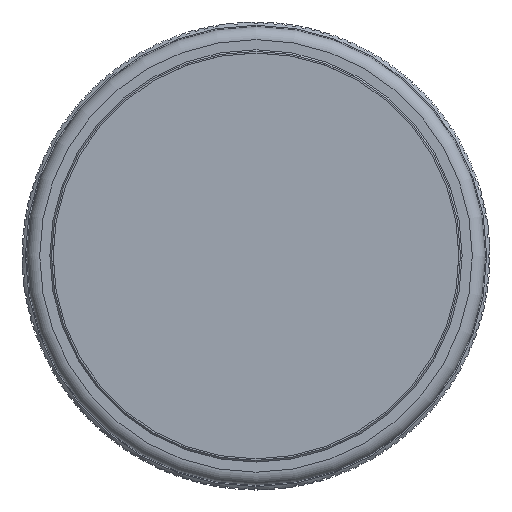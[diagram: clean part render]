
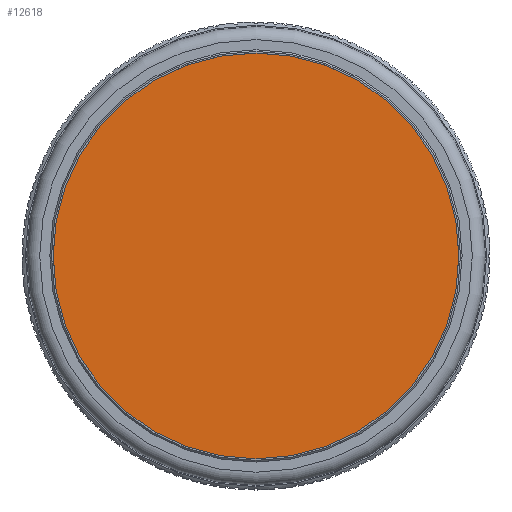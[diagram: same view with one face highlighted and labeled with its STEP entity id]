
A CAD part, top view. The second image highlights one B-rep face of the part: STEP entity #12618.
In plain terms, the highlighted planar face has unit normal (0, 0, 1) as drawn and (-1, 0, 0) by its records, which use the part's own axes.
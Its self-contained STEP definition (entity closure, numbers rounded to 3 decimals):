
#648=PLANE('',#13656);
#1431=FACE_OUTER_BOUND('',#2079,.T.);
#2079=EDGE_LOOP('',(#11849));
#2434=CIRCLE('',#13657,30.999);
#6370=VERTEX_POINT('',#20990);
#8204=EDGE_CURVE('',#6370,#6370,#2434,.T.);
#11849=ORIENTED_EDGE('',*,*,#8204,.F.);
#12618=ADVANCED_FACE('',(#1431),#648,.T.);
#13656=AXIS2_PLACEMENT_3D('',#20989,#16898,#16899);
#13657=AXIS2_PLACEMENT_3D('',#20991,#16900,#16901);
#16898=DIRECTION('center_axis',(-1.,0.,0.));
#16899=DIRECTION('ref_axis',(0.,0.,1.));
#16900=DIRECTION('center_axis',(1.,0.,0.));
#16901=DIRECTION('ref_axis',(0.,1.,0.));
#20989=CARTESIAN_POINT('Origin',(167.935,124.308,0.));
#20990=CARTESIAN_POINT('',(167.935,77.809,0.));
#20991=CARTESIAN_POINT('Origin',(167.935,108.808,0.));
